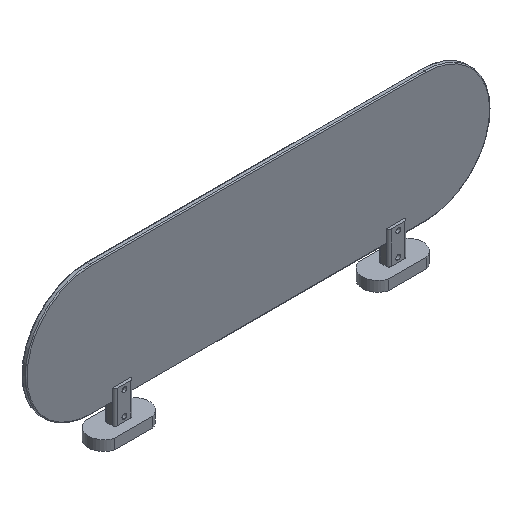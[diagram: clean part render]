
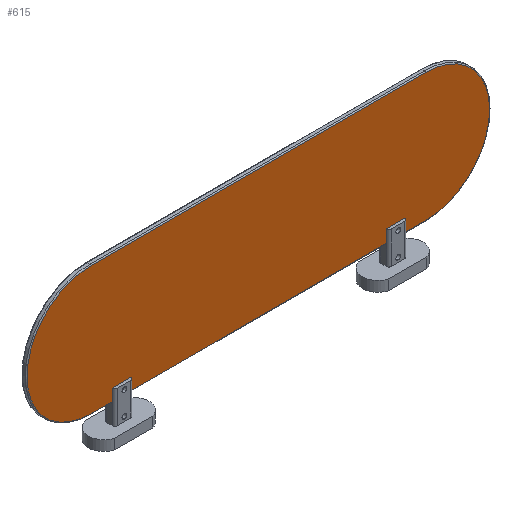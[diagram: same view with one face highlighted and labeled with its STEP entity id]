
A CAD part, isometric view. The second image highlights one B-rep face of the part: STEP entity #615.
In plain terms, the highlighted planar face has unit normal (0, -1, 0).
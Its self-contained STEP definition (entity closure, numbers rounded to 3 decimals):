
#64 = CIRCLE ( 'NONE', #2093, 69. ) ;
#193 = CARTESIAN_POINT ( 'NONE',  ( -180., 0., 0. ) ) ;
#194 = EDGE_CURVE ( 'NONE', #3083, #2921, #513, .T. ) ;
#396 = CARTESIAN_POINT ( 'NONE',  ( -180., 0., -69. ) ) ;
#431 = FACE_OUTER_BOUND ( 'NONE', #588, .T. ) ;
#502 = AXIS2_PLACEMENT_3D ( 'NONE', #951, #3128, #2833 ) ;
#513 = LINE ( 'NONE', #3033, #1949 ) ;
#588 = EDGE_LOOP ( 'NONE', ( #702, #2089, #2613, #594 ) ) ;
#594 = ORIENTED_EDGE ( 'NONE', *, *, #3545, .T. ) ;
#615 = ADVANCED_FACE ( 'NONE', ( #431 ), #1779, .T. ) ;
#622 = EDGE_CURVE ( 'NONE', #939, #2201, #2409, .T. ) ;
#686 = DIRECTION ( 'NONE',  ( 0., 0., -1. ) ) ;
#702 = ORIENTED_EDGE ( 'NONE', *, *, #194, .T. ) ;
#722 = DIRECTION ( 'NONE',  ( 1., 0., 0. ) ) ;
#939 = VERTEX_POINT ( 'NONE', #1356 ) ;
#951 = CARTESIAN_POINT ( 'NONE',  ( -180., 0., 0. ) ) ;
#1019 = EDGE_CURVE ( 'NONE', #2921, #939, #1603, .T. ) ;
#1132 = CARTESIAN_POINT ( 'NONE',  ( 180., 0., -69. ) ) ;
#1356 = CARTESIAN_POINT ( 'NONE',  ( -180., 0., -69. ) ) ;
#1603 = CIRCLE ( 'NONE', #502, 69. ) ;
#1779 = PLANE ( 'NONE',  #3274 ) ;
#1813 = DIRECTION ( 'NONE',  ( 0., 0., -1. ) ) ;
#1949 = VECTOR ( 'NONE', #2719, 1000. ) ;
#2089 = ORIENTED_EDGE ( 'NONE', *, *, #1019, .T. ) ;
#2093 = AXIS2_PLACEMENT_3D ( 'NONE', #2966, #2370, #1813 ) ;
#2201 = VERTEX_POINT ( 'NONE', #1132 ) ;
#2370 = DIRECTION ( 'NONE',  ( 0., -1., 0. ) ) ;
#2409 = LINE ( 'NONE', #396, #2753 ) ;
#2576 = CARTESIAN_POINT ( 'NONE',  ( 180., 0., 69. ) ) ;
#2613 = ORIENTED_EDGE ( 'NONE', *, *, #622, .T. ) ;
#2719 = DIRECTION ( 'NONE',  ( -1., 0., 0. ) ) ;
#2753 = VECTOR ( 'NONE', #722, 1000. ) ;
#2833 = DIRECTION ( 'NONE',  ( 0., 0., -1. ) ) ;
#2921 = VERTEX_POINT ( 'NONE', #3494 ) ;
#2931 = DIRECTION ( 'NONE',  ( 0., -1., 0. ) ) ;
#2966 = CARTESIAN_POINT ( 'NONE',  ( 180., 0., 0. ) ) ;
#3033 = CARTESIAN_POINT ( 'NONE',  ( -180., 0., 69. ) ) ;
#3083 = VERTEX_POINT ( 'NONE', #2576 ) ;
#3128 = DIRECTION ( 'NONE',  ( 0., -1., 0. ) ) ;
#3274 = AXIS2_PLACEMENT_3D ( 'NONE', #193, #2931, #686 ) ;
#3494 = CARTESIAN_POINT ( 'NONE',  ( -180., 0., 69. ) ) ;
#3545 = EDGE_CURVE ( 'NONE', #2201, #3083, #64, .T. ) ;
